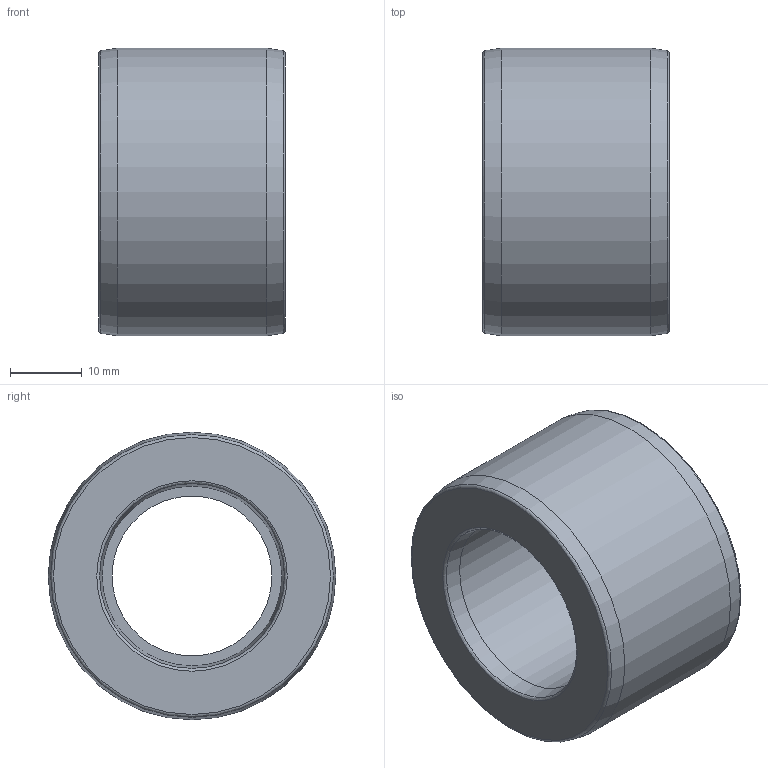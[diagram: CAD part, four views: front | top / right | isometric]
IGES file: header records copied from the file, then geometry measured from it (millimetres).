
Global section: file name: 050900040025.ipt; native system: Autodesk Inventor 2015; preprocessor: unknown; author: KIM; date: 20171207.165104; units: millimetre
Bounding box: 26 x 40 x 40 mm (x, y, z)
Volume: 19707.1 mm3; surface area: 6744.1 mm2
Topology: 1 solids, 1 shells, 15 faces, 43 edges, 31 vertices
Faces by surface type: revolution 9, plane 3, cone 2, cylinder 1
Full cylindrical faces by diameter (mm): 40 x1
